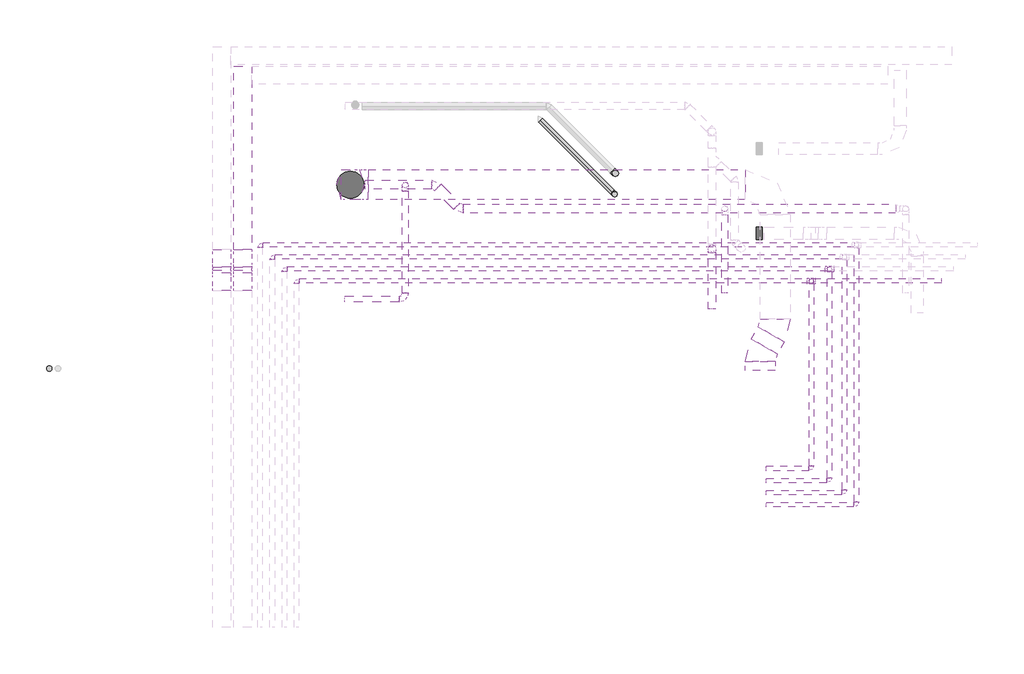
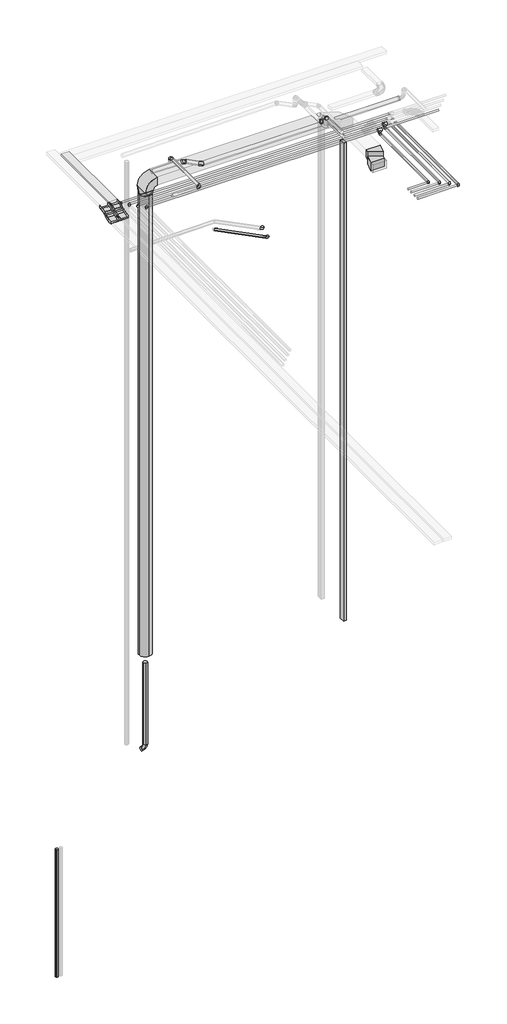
# One storey, part 4 of 5: 19 pipe segments, 15 pipe fittings, 13 duct segments, 10 duct fittings, 4 cable carrier fittings, 4 cable carrier segments.
"""IFC4 building model written with IfcOpenShell, lengths in millimetres."""

from ifc_helpers import new_model, si_unit, point, frame, frame_2d, origin, place, context, project, spatial, polyline, circle_curve, trimmed, segment, composite_curve, outline, extrude, transform, mapped, element, save
from components import m_codo_vertical_exterior_de_canal_el_c4dc7364, m_codo_vertical_interior_de_canal_el_3f65be50, duct_fitting_6ef35b37, ext_4e2ed20d, m_codo_rectangular_radio_ext_1_w_5d3c8198, m_codo_rectangular_radio_ext_1_w_15f3d34f, m_codo_redondo_ext_1_d_fe658834, m_codo_redondo_ext_1_d_85067ab4, m_codo_redondo_ext_1_d_18db741d, pipe_fitting_8e92d537, pipe_fitting_3454c7e7, pipe_fitting_51958308, pipe_fitting_3a68447e, t_soldadura_a_enchufe_ff252817

model = new_model("IFC4")

# Units and contexts
model_context = context("Model", 3, world=origin())
ifc_project = project(units=[si_unit("LENGTHUNIT", "METRE", prefix="MILLI")], contexts=[model_context])

# Site, building, storey
site = spatial("IfcSite", under=ifc_project)
building = spatial("IfcBuilding", under=site)
storey = spatial("IfcBuildingStorey", under=building, Name="Nivell 06 P06_PP", Elevation=29910.0)

# Cable carrier fittings
placement = place(None, origin())
m_codo_vertical_exterior_de_canal_el_shape = m_codo_vertical_exterior_de_canal_el_c4dc7364(model_context)
element("IfcCableCarrierFitting", 1, ObjectType="M_Codo vertical exterior de canal : EL", at=placement, inside=storey, context=model_context, shape_type="MappedRepresentation", body=[
    mapped(m_codo_vertical_exterior_de_canal_el_shape, transform((5357.0671065, 6149.6159499, 33210.0), x_axis=(0.0, -1.0, 0.0), y_axis=(0.0, 0.0, -1.0), z_axis=(1.0, 0.0, 0.0))),
])
element("IfcCableCarrierFitting", 2, ObjectType="M_Codo vertical exterior de canal : EL", at=placement, inside=storey, context=model_context, shape_type="MappedRepresentation", body=[
    mapped(m_codo_vertical_exterior_de_canal_el_shape, transform((5008.2381883, 6149.6159499, 33210.0), x_axis=(0.0, -1.0, 0.0), y_axis=(0.0, 0.0, -1.0), z_axis=(1.0, 0.0, 0.0))),
])
m_codo_vertical_interior_de_canal_el_shape = m_codo_vertical_interior_de_canal_el_3f65be50(model_context)
element("IfcCableCarrierFitting", 3, ObjectType="M_Codo vertical interior de canal : EL", at=placement, inside=storey, context=model_context, shape_type="MappedRepresentation", body=[
    mapped(m_codo_vertical_interior_de_canal_el_shape, transform((5357.0671065, 5803.2057884, 33010.0), x_axis=(0.0, -0.8660254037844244, -0.5000000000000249), y_axis=(0.0, -0.5000000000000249, 0.8660254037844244), z_axis=(-1.0, 0.0, 0.0))),
])
element("IfcCableCarrierFitting", 4, ObjectType="M_Codo vertical interior de canal : EL", at=placement, inside=storey, context=model_context, shape_type="MappedRepresentation", body=[
    mapped(m_codo_vertical_interior_de_canal_el_shape, transform((5008.2381883, 5803.2057884, 33010.0), x_axis=(0.0, -0.8660254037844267, -0.5000000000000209), y_axis=(0.0, -0.5000000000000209, 0.8660254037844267), z_axis=(-1.0, 0.0, 0.0))),
])

# Cable carrier segments
element("IfcCableCarrierSegment", 5, ObjectType="EL", at=placement, inside=storey, context=model_context, shape_type="SweptSolid", body=[
    extrude(outline(polyline([(5207.0671065, 9356.732053), (5507.0671065, 9356.732053), (5507.0671065, 6318.3981673), (5207.0671065, 6318.3981673), (5207.0671065, 9356.732053)])), frame((0.0, 0.0, 33160.0), z_axis=(0.0, 0.0, 1.0), x_axis=(1.0, 0.0, 0.0)), (0.0, 0.0, 1.0), 100.0),
])
element("IfcCableCarrierSegment", 6, ObjectType="EL", at=placement, inside=storey, context=model_context, shape_type="SweptSolid", body=[
    extrude(outline(polyline([(0.0, -300.0), (0.0, 0.0), (62.4355653, 0.0), (62.4355653, -300.0), (0.0, -300.0)])), frame((5507.0671065, 6028.446262, 33082.3076211), z_axis=(0.0, -0.5000000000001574, 0.8660254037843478), x_axis=(0.0, -0.8660254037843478, -0.5000000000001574)), (0.0, 0.0, 1.0), 100.0),
])
element("IfcCableCarrierSegment", 7, ObjectType="EL", at=placement, inside=storey, context=model_context, shape_type="SweptSolid", body=[
    extrude(outline(polyline([(0.0, -300.0), (0.0, 0.0), (62.4355653, 0.0), (62.4355653, -300.0), (0.0, -300.0)])), frame((5158.2381883, 6028.446262, 33082.3076211), z_axis=(0.0, -0.49999999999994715, 0.8660254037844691), x_axis=(0.0, -0.8660254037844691, -0.49999999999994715)), (0.0, 0.0, 1.0), 100.0),
])
element("IfcCableCarrierSegment", 8, ObjectType="SF", at=placement, inside=storey, context=model_context, shape_type="SweptSolid", body=[
    extrude(outline(polyline([(13970.4560007, 6685.5467988), (13970.4560007, 6485.5467988), (13870.4560007, 6485.5467988), (13870.4560007, 6685.5467988), (13970.4560007, 6685.5467988)])), frame((0.0, 0.0, 13920.0), z_axis=(0.0, 0.0, 1.0), x_axis=(1.0, 0.0, 0.0)), (0.0, 0.0, 1.0), 18475.0),
])

# Duct fittings
duct_fitting_shape = duct_fitting_6ef35b37(model_context)
element("IfcDuctFitting", 9, ObjectType="M_Transición de rectangular a redondo - Ángulo : EXT_45 graus", at=placement, inside=storey, context=model_context, shape_type="MappedRepresentation", body=[
    mapped(duct_fitting_shape, transform((7140.48325, 7392.2381133, 32485.0), x_axis=(0.0, 0.0, -1.0), y_axis=(-1.0, 0.0, 0.0), z_axis=(0.0, 1.0, 0.0))),
])
ext_shape = ext_4e2ed20d(model_context)
element("IfcDuctFitting", 10, ObjectType="M_Toma de derivación redonda : EXT", at=placement, inside=storey, context=model_context, shape_type="MappedRepresentation", body=[
    mapped(ext_shape, transform((13350.5896993, 6992.2199701, 33090.0), x_axis=(0.0, 0.0, 1.0), y_axis=(1.0, 0.0, 0.0), z_axis=(0.0, 1.0, 0.0))),
])
m_codo_rectangular_radio_ext_1_w_shape = m_codo_rectangular_radio_ext_1_w_5d3c8198(model_context)
element("IfcDuctFitting", 11, ObjectType="M_Codo rectangular - Radio : EXT_1 W", at=placement, inside=storey, context=model_context, shape_type="MappedRepresentation", body=[
    mapped(m_codo_rectangular_radio_ext_1_w_shape, transform((7140.48325, 7392.2381133, 32785.0), x_axis=(-1.0, 0.0, 0.0), y_axis=(0.0, 0.0, -1.0), z_axis=(0.0, -1.0, 0.0))),
])
m_codo_rectangular_radio_ext_1_w_2_shape = m_codo_rectangular_radio_ext_1_w_15f3d34f(model_context)
element("IfcDuctFitting", 12, ObjectType="M_Codo rectangular - Radio : EXT_1 W", at=placement, inside=storey, context=model_context, shape_type="MappedRepresentation", body=[
    mapped(m_codo_rectangular_radio_ext_1_w_2_shape, transform((14190.3969782, 5024.9532448, 32785.0), x_axis=(0.50000000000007, 0.8660254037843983, 0.0), y_axis=(-0.8660254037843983, 0.50000000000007, 0.0), z_axis=(0.0, 0.0, 1.0))),
])
element("IfcDuctFitting", 13, ObjectType="M_Codo rectangular - Radio : EXT_1 W", at=placement, inside=storey, context=model_context, shape_type="MappedRepresentation", body=[
    mapped(m_codo_rectangular_radio_ext_1_w_2_shape, transform((13940.4053207, 4591.9549925, 32785.0), x_axis=(-0.5000000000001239, -0.8660254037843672, 0.0), y_axis=(0.8660254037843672, -0.5000000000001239, 0.0), z_axis=(0.0, 0.0, 1.0))),
])
m_codo_redondo_ext_1_d_shape = m_codo_redondo_ext_1_d_fe658834(model_context)
element("IfcDuctFitting", 14, ObjectType="M_Codo redondo : EXT_1 D", at=placement, inside=storey, context=model_context, shape_type="MappedRepresentation", body=[
    mapped(m_codo_redondo_ext_1_d_shape, transform((7140.48325, 7392.2381133, 10855.0), x_axis=(0.0, 0.0, -1.0), y_axis=(-0.9999999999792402, 6.443574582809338e-06, 0.0), z_axis=(6.443574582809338e-06, 0.9999999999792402, 0.0))),
])
m_codo_redondo_ext_1_d_2_shape = m_codo_redondo_ext_1_d_85067ab4(model_context)
element("IfcDuctFitting", 15, ObjectType="M_Codo redondo : EXT_1 D", at=placement, inside=storey, context=model_context, shape_type="MappedRepresentation", body=[
    mapped(m_codo_redondo_ext_1_d_2_shape, transform((8050.5896993, 5490.7319202, 33360.0), x_axis=(1.0, 0.0, 0.0), y_axis=(0.0, 1.0, 0.0), z_axis=(0.0, 0.0, 1.0))),
])
element("IfcDuctFitting", 16, ObjectType="M_Codo redondo : EXT_1 D", at=placement, inside=storey, context=model_context, shape_type="MappedRepresentation", body=[
    mapped(m_codo_redondo_ext_1_d_2_shape, transform((8050.5896993, 7388.2772732, 33360.0), x_axis=(0.0, 1.0, 0.0), y_axis=(0.0, 0.0, -1.0), z_axis=(-1.0, 0.0, 0.0))),
])
m_codo_redondo_ext_1_d_3_shape = m_codo_redondo_ext_1_d_18db741d(model_context)
element("IfcDuctFitting", 17, ObjectType="M_Codo redondo : EXT_1 D", at=placement, inside=storey, context=model_context, shape_type="MappedRepresentation", body=[
    mapped(m_codo_redondo_ext_1_d_3_shape, transform((8950.5896993, 6992.2199701, 33015.0), x_axis=(0.7071067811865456, -0.7071067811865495, 0.0), y_axis=(0.7071067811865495, 0.7071067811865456, 0.0), z_axis=(0.0, 0.0, 1.0))),
])
element("IfcDuctFitting", 18, ObjectType="M_Codo redondo : EXT_1 D", at=placement, inside=storey, context=model_context, shape_type="MappedRepresentation", body=[
    mapped(m_codo_redondo_ext_1_d_3_shape, transform((8550.5886625, 7392.2210069, 33015.0), x_axis=(-0.7071067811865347, 0.7071067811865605, 0.0), y_axis=(-0.7071067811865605, -0.7071067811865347, 0.0), z_axis=(0.0, 0.0, 1.0))),
])

# Duct segments
element("IfcDuctSegment", 19, ObjectType="EXT_Planxa galvanitzada", at=placement, inside=storey, context=model_context, shape_type="SweptSolid", body=[
    extrude(outline(polyline([(7440.48325, 7142.2381133), (7440.48325, 7642.2381133), (13690.3969782, 7642.2381133), (13690.3969782, 7142.2381133), (7440.48325, 7142.2381133)])), frame((0.0, 0.0, 32635.0), z_axis=(0.0, 0.0, 1.0), x_axis=(1.0, 0.0, 0.0)), (0.0, 0.0, 1.0), 300.0),
])
element("IfcDuctSegment", 20, ObjectType="EXT_Acer Galvanitzat - Rígid", at=placement, inside=storey, context=model_context, shape_type="SweptSolid", body=[
    extrude(outline(composite_curve([segment(trimmed(circle_curve(frame_2d((7140.48325, 7392.2381133)), 75.0), [point((7215.4832499, 7392.2349849))], [point((7140.4801216, 7317.2381134))], False, "CARTESIAN"), True, "CONTINUOUS"), segment(trimmed(circle_curve(frame_2d((7140.48325, 7392.2381133)), 75.0), [point((7140.4801216, 7317.2381134))], [point((7065.48325, 7392.2412417))], False, "CARTESIAN"), True, "CONTINUOUS"), segment(trimmed(circle_curve(frame_2d((7140.48325, 7392.2381133)), 75.0), [point((7065.48325, 7392.2412417))], [point((7140.4863784, 7467.2381132))], False, "CARTESIAN"), True, "CONTINUOUS"), segment(trimmed(circle_curve(frame_2d((7140.48325, 7392.2381133)), 75.0), [point((7140.4863784, 7467.2381132))], [point((7215.4832499, 7392.2349849))], False, "CARTESIAN"), True, "CONTINUOUS")], self_intersect=False)), frame((0.0, 0.0, 11005.0), z_axis=(0.0, 0.0, 1.0), x_axis=(1.0, 0.0, 0.0)), (0.0, 0.0, 1.0), 3145.3947342),
])
element("IfcDuctSegment", 21, ObjectType="EXT_Acer Galvanitzat - Rígid", at=placement, inside=storey, context=model_context, shape_type="SweptSolid", body=[
    extrude(outline(composite_curve([segment(trimmed(circle_curve(frame_2d((6992.2199701, 33015.0)), 75.0), [point((7067.2199701, 33015.0))], [point((6992.2199701, 32940.0))], False, "CARTESIAN"), True, "CONTINUOUS"), segment(trimmed(circle_curve(frame_2d((6992.2199701, 33015.0)), 75.0), [point((6992.2199701, 32940.0))], [point((6917.2199701, 33015.0))], False, "CARTESIAN"), True, "CONTINUOUS"), segment(trimmed(circle_curve(frame_2d((6992.2199701, 33015.0)), 75.0), [point((6917.2199701, 33015.0))], [point((6992.2199701, 33090.0))], False, "CARTESIAN"), True, "CONTINUOUS"), segment(trimmed(circle_curve(frame_2d((6992.2199701, 33015.0)), 75.0), [point((6992.2199701, 33090.0))], [point((7067.2199701, 33015.0))], False, "CARTESIAN"), True, "CONTINUOUS")], self_intersect=False)), frame((9012.7217336, 0.0, 0.0), z_axis=(1.0, 0.0, 0.0), x_axis=(0.0, 1.0, 0.0)), (0.0, 0.0, 1.0), 7177.5126266),
])
element("IfcDuctSegment", 22, ObjectType="EXT_Acer Galvanitzat - Rígid", at=placement, inside=storey, context=model_context, shape_type="SweptSolid", body=[
    extrude(outline(composite_curve([segment(trimmed(circle_curve(frame_2d((5490.7319202, 33360.0)), 50.0), [point((5440.7319202, 33360.0))], [point((5490.7319202, 33410.0))], False, "CARTESIAN"), True, "CONTINUOUS"), segment(trimmed(circle_curve(frame_2d((5490.7319202, 33360.0)), 50.0), [point((5490.7319202, 33410.0))], [point((5540.7319202, 33360.0))], False, "CARTESIAN"), True, "CONTINUOUS"), segment(trimmed(circle_curve(frame_2d((5490.7319202, 33360.0)), 50.0), [point((5540.7319202, 33360.0))], [point((5490.7319202, 33310.0))], False, "CARTESIAN"), True, "CONTINUOUS"), segment(trimmed(circle_curve(frame_2d((5490.7319202, 33360.0)), 50.0), [point((5490.7319202, 33310.0))], [point((5440.7319202, 33360.0))], False, "CARTESIAN"), True, "CONTINUOUS")], self_intersect=False)), frame((7050.5896993, 0.0, 0.0), z_axis=(1.0, 0.0, 0.0), x_axis=(0.0, 1.0, 0.0)), (0.0, 0.0, 1.0), 900.0),
])
element("IfcDuctSegment", 23, ObjectType="EXT_Acer Galvanitzat - Rígid", at=placement, inside=storey, context=model_context, shape_type="SweptSolid", body=[
    extrude(outline(composite_curve([segment(trimmed(circle_curve(frame_2d((33360.0, 8050.5896993)), 50.0), [point((33360.0, 8000.5896993))], [point((33310.0, 8050.5896993))], False, "CARTESIAN"), True, "CONTINUOUS"), segment(trimmed(circle_curve(frame_2d((33360.0, 8050.5896993)), 50.0), [point((33310.0, 8050.5896993))], [point((33360.0, 8100.5896993))], False, "CARTESIAN"), True, "CONTINUOUS"), segment(trimmed(circle_curve(frame_2d((33360.0, 8050.5896993)), 50.0), [point((33360.0, 8100.5896993))], [point((33410.0, 8050.5896993))], False, "CARTESIAN"), True, "CONTINUOUS"), segment(trimmed(circle_curve(frame_2d((33360.0, 8050.5896993)), 50.0), [point((33410.0, 8050.5896993))], [point((33360.0, 8000.5896993))], False, "CARTESIAN"), True, "CONTINUOUS")], self_intersect=False)), frame((0.0, 5590.7319202, 0.0), z_axis=(0.0, 1.0, 0.0), x_axis=(0.0, 0.0, 1.0)), (0.0, 0.0, 1.0), 1697.545353),
])
element("IfcDuctSegment", 24, ObjectType="EXT_Acer Galvanitzat - Rígid", at=placement, inside=storey, context=model_context, shape_type="SweptSolid", body=[
    extrude(outline(composite_curve([segment(trimmed(circle_curve(frame_2d((8050.5896993, 7388.2772732)), 50.0), [point((8000.5896993, 7388.2772732))], [point((8050.5896993, 7438.2772732))], False, "CARTESIAN"), True, "CONTINUOUS"), segment(trimmed(circle_curve(frame_2d((8050.5896993, 7388.2772732)), 50.0), [point((8050.5896993, 7438.2772732))], [point((8100.5896993, 7388.2772732))], False, "CARTESIAN"), True, "CONTINUOUS"), segment(trimmed(circle_curve(frame_2d((8050.5896993, 7388.2772732)), 50.0), [point((8100.5896993, 7388.2772732))], [point((8050.5896993, 7338.2772732))], False, "CARTESIAN"), True, "CONTINUOUS"), segment(trimmed(circle_curve(frame_2d((8050.5896993, 7388.2772732)), 50.0), [point((8050.5896993, 7338.2772732))], [point((8000.5896993, 7388.2772732))], False, "CARTESIAN"), True, "CONTINUOUS")], self_intersect=False)), frame((0.0, 0.0, 33191.6), z_axis=(0.0, 0.0, 1.0), x_axis=(1.0, 0.0, 0.0)), (0.0, 0.0, 1.0), 68.4),
])
element("IfcDuctSegment", 25, ObjectType="EXT_Acer Galvanitzat - Rígid", at=placement, inside=storey, context=model_context, shape_type="SweptSolid", body=[
    extrude(outline(composite_curve([segment(trimmed(circle_curve(frame_2d((33360.0, 13350.5896993)), 50.0), [point((33360.0, 13300.5896993))], [point((33310.0, 13350.5896993))], False, "CARTESIAN"), True, "CONTINUOUS"), segment(trimmed(circle_curve(frame_2d((33360.0, 13350.5896993)), 50.0), [point((33310.0, 13350.5896993))], [point((33360.0, 13400.5896993))], False, "CARTESIAN"), True, "CONTINUOUS"), segment(trimmed(circle_curve(frame_2d((33360.0, 13350.5896993)), 50.0), [point((33360.0, 13400.5896993))], [point((33410.0, 13350.5896993))], False, "CARTESIAN"), True, "CONTINUOUS"), segment(trimmed(circle_curve(frame_2d((33360.0, 13350.5896993)), 50.0), [point((33410.0, 13350.5896993))], [point((33360.0, 13300.5896993))], False, "CARTESIAN"), True, "CONTINUOUS")], self_intersect=False)), frame((0.0, 5590.7319202, 0.0), z_axis=(0.0, 1.0, 0.0), x_axis=(0.0, 0.0, 1.0)), (0.0, 0.0, 1.0), 1301.48805),
])
element("IfcDuctSegment", 26, ObjectType="EXT_Acer Galvanitzat - Rígid", at=placement, inside=storey, context=model_context, shape_type="SweptSolid", body=[
    extrude(outline(composite_curve([segment(trimmed(circle_curve(frame_2d((13350.5896993, 6992.2199701)), 50.0), [point((13300.5896993, 6992.2199701))], [point((13350.5896993, 7042.2199701))], False, "CARTESIAN"), True, "CONTINUOUS"), segment(trimmed(circle_curve(frame_2d((13350.5896993, 6992.2199701)), 50.0), [point((13350.5896993, 7042.2199701))], [point((13400.5896993, 6992.2199701))], False, "CARTESIAN"), True, "CONTINUOUS"), segment(trimmed(circle_curve(frame_2d((13350.5896993, 6992.2199701)), 50.0), [point((13400.5896993, 6992.2199701))], [point((13350.5896993, 6942.2199701))], False, "CARTESIAN"), True, "CONTINUOUS"), segment(trimmed(circle_curve(frame_2d((13350.5896993, 6992.2199701)), 50.0), [point((13350.5896993, 6942.2199701))], [point((13300.5896993, 6992.2199701))], False, "CARTESIAN"), True, "CONTINUOUS")], self_intersect=False)), frame((0.0, 0.0, 33191.6), z_axis=(0.0, 0.0, 1.0), x_axis=(1.0, 0.0, 0.0)), (0.0, 0.0, 1.0), 68.4),
])
element("IfcDuctSegment", 27, ObjectType="EXT_Planxa galvanitzada", at=placement, inside=storey, context=model_context, shape_type="SweptSolid", body=[
    extrude(outline(polyline([(14190.4053207, 4311.9549925), (13690.4053207, 4311.9549925), (13690.4053207, 4457.9803963), (14190.4053207, 4457.9803963), (14190.4053207, 4311.9549925)])), frame((0.0, 0.0, 32635.0), z_axis=(0.0, 0.0, 1.0), x_axis=(1.0, 0.0, 0.0)), (0.0, 0.0, 1.0), 300.0),
])
element("IfcDuctSegment", 28, ObjectType="EXT_Planxa galvanitzada", at=placement, inside=storey, context=model_context, shape_type="SweptSolid", body=[
    extrude(outline(polyline([(13906.9033292, 5033.927841), (14339.9160311, 4783.927841), (14223.8989697, 4582.9803963), (13790.8862678, 4832.9803963), (13906.9033292, 5033.927841)])), frame((0.0, 0.0, 32635.0), z_axis=(0.0, 0.0, 1.0), x_axis=(1.0, 0.0, 0.0)), (0.0, 0.0, 1.0), 300.0),
])
element("IfcDuctSegment", 29, ObjectType="EXT_Acer Galvanitzat - Rígid", at=placement, inside=storey, context=model_context, shape_type="SweptSolid", body=[
    extrude(outline(composite_curve([segment(trimmed(circle_curve(frame_2d((7140.48325, 7392.2381133)), 225.0), [point((7365.4832498, 7392.2287281))], [point((7140.4738648, 7167.2381135))], False, "CARTESIAN"), True, "CONTINUOUS"), segment(trimmed(circle_curve(frame_2d((7140.48325, 7392.2381133)), 225.0), [point((7140.4738648, 7167.2381135))], [point((6915.4832502, 7392.2474985))], False, "CARTESIAN"), True, "CONTINUOUS"), segment(trimmed(circle_curve(frame_2d((7140.48325, 7392.2381133)), 225.0), [point((6915.4832502, 7392.2474985))], [point((7140.4926352, 7617.2381131))], False, "CARTESIAN"), True, "CONTINUOUS"), segment(trimmed(circle_curve(frame_2d((7140.48325, 7392.2381133)), 225.0), [point((7140.4926352, 7617.2381131))], [point((7365.4832498, 7392.2287281))], False, "CARTESIAN"), True, "CONTINUOUS")], self_intersect=False)), frame((0.0, 0.0, 14512.5267686), z_axis=(0.0, 0.0, 1.0), x_axis=(1.0, 0.0, 0.0)), (0.0, 0.0, 1.0), 17791.4072142),
])
element("IfcDuctSegment", 30, ObjectType="EXT_Acer Galvanitzat - Rígid", at=placement, inside=storey, context=model_context, shape_type="SweptSolid", body=[
    extrude(outline(composite_curve([segment(trimmed(circle_curve(frame_2d((0.0, 75.0)), 75.0), [point((74.9999999, 75.0))], [point((0.0, 0.0))], False, "CARTESIAN"), True, "CONTINUOUS"), segment(trimmed(circle_curve(frame_2d((0.0, 75.0)), 75.0), [point((0.0, 0.0))], [point((-74.9999999, 75.0))], False, "CARTESIAN"), True, "CONTINUOUS"), segment(trimmed(circle_curve(frame_2d((0.0, 75.0)), 75.0), [point((-74.9999999, 75.0))], [point((0.0, 150.0))], False, "CARTESIAN"), True, "CONTINUOUS"), segment(trimmed(circle_curve(frame_2d((0.0, 75.0)), 75.0), [point((0.0, 150.0))], [point((74.9999999, 75.0))], False, "CARTESIAN"), True, "CONTINUOUS")], self_intersect=False)), frame((8906.6557164, 7036.153953, 33090.0), z_axis=(-0.7071067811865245, 0.7071067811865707, 0.0), x_axis=(0.7071067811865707, 0.7071067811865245, 0.0)), (0.0, 0.0, 1.0), 441.4228225),
])
element("IfcDuctSegment", 31, ObjectType="EXT_Acer Galvanitzat - Rígid", at=placement, inside=storey, context=model_context, shape_type="SweptSolid", body=[
    extrude(outline(composite_curve([segment(trimmed(circle_curve(frame_2d((7392.2210069, 33015.0)), 75.0), [point((7467.2210069, 33015.0))], [point((7392.2210069, 32940.0))], False, "CARTESIAN"), True, "CONTINUOUS"), segment(trimmed(circle_curve(frame_2d((7392.2210069, 33015.0)), 75.0), [point((7392.2210069, 32940.0))], [point((7317.2210069, 33015.0))], False, "CARTESIAN"), True, "CONTINUOUS"), segment(trimmed(circle_curve(frame_2d((7392.2210069, 33015.0)), 75.0), [point((7317.2210069, 33015.0))], [point((7392.2210069, 33090.0))], False, "CARTESIAN"), True, "CONTINUOUS"), segment(trimmed(circle_curve(frame_2d((7392.2210069, 33015.0)), 75.0), [point((7392.2210069, 33090.0))], [point((7467.2210069, 33015.0))], False, "CARTESIAN"), True, "CONTINUOUS")], self_intersect=False)), frame((7390.5886625, 0.0, 0.0), z_axis=(1.0, 0.0, 0.0), x_axis=(0.0, 1.0, 0.0)), (0.0, 0.0, 1.0), 1097.8679656),
])

# Pipe fittings
pipe_fitting_shape = pipe_fitting_8e92d537(model_context)
element("IfcPipeFitting", 32, ObjectType="M_Codo - Genérico : Estándar", at=placement, inside=storey, context=model_context, shape_type="MappedRepresentation", body=[
    mapped(pipe_fitting_shape, transform((13139.2009924, 6332.8732675, 33759.3614455), x_axis=(0.0, 0.0, 1.0), y_axis=(-5.758192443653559e-07, -0.9999999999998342, 0.0), z_axis=(0.9999999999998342, -5.758192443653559e-07, 0.0))),
])
pipe_fitting_2_shape = pipe_fitting_3454c7e7(model_context)
element("IfcPipeFitting", 33, ObjectType="M_Codo - Genérico : Estándar", at=placement, inside=storey, context=model_context, shape_type="MappedRepresentation", body=[
    mapped(pipe_fitting_2_shape, transform((11534.5619983, 7581.1908892, 29260.0), x_axis=(0.7070714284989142, -0.7070714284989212, 0.00999950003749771), y_axis=(0.007070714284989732, -0.007070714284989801, -0.9999500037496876), z_axis=(0.707106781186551, 0.707106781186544, 0.0))),
])
pipe_fitting_3_shape = pipe_fitting_51958308(model_context)
element("IfcPipeFitting", 34, ObjectType="M_Codo - Genérico : Estándar", at=placement, inside=storey, context=model_context, shape_type="MappedRepresentation", body=[
    mapped(pipe_fitting_3_shape, transform((11525.3277949, 7233.9123781, 29132.2904279), x_axis=(0.7070714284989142, -0.7070714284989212, 0.00999950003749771), y_axis=(0.007070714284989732, -0.007070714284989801, -0.9999500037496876), z_axis=(0.707106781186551, 0.707106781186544, 0.0))),
])
pipe_fitting_4_shape = pipe_fitting_3a68447e(model_context)
element("IfcPipeFitting", 35, ObjectType="M_Codo - Genérico : Estándar", at=placement, inside=storey, context=model_context, shape_type="MappedRepresentation", body=[
    mapped(pipe_fitting_4_shape, transform((5645.7381883, 6394.2427547, 33022.5), x_axis=(-1.0, 0.0, 0.0), y_axis=(0.0, -1.0, 0.0), z_axis=(0.0, 0.0, 1.0))),
])
element("IfcPipeFitting", 36, ObjectType="M_Codo - Genérico : Estándar", at=placement, inside=storey, context=model_context, shape_type="MappedRepresentation", body=[
    mapped(pipe_fitting_4_shape, transform((5845.7381883, 6194.2427547, 33022.5), x_axis=(-1.0, 0.0, 0.0), y_axis=(0.0, -1.0, 0.0), z_axis=(0.0, 0.0, 1.0))),
])
element("IfcPipeFitting", 37, ObjectType="M_Codo - Genérico : Estándar", at=placement, inside=storey, context=model_context, shape_type="MappedRepresentation", body=[
    mapped(pipe_fitting_4_shape, transform((6045.7381883, 5994.2427547, 33022.5), x_axis=(-1.0, 0.0, 0.0), y_axis=(0.0, -1.0, 0.0), z_axis=(0.0, 0.0, 1.0))),
])
element("IfcPipeFitting", 38, ObjectType="M_Codo - Genérico : Estándar", at=placement, inside=storey, context=model_context, shape_type="MappedRepresentation", body=[
    mapped(pipe_fitting_4_shape, transform((6245.7381883, 5794.2427547, 33022.5), x_axis=(-1.0, 0.0, 0.0), y_axis=(0.0, -1.0, 0.0), z_axis=(0.0, 0.0, 1.0))),
])
element("IfcPipeFitting", 39, ObjectType="M_Codo - Genérico : Estándar", at=placement, inside=storey, context=model_context, shape_type="MappedRepresentation", body=[
    mapped(pipe_fitting_4_shape, transform((14787.4352568, 2683.4063617, 32872.5), x_axis=(1.0, 0.0, 0.0), y_axis=(0.0, 1.0, 0.0), z_axis=(0.0, 0.0, 1.0))),
])
element("IfcPipeFitting", 40, ObjectType="M_Codo - Genérico : Estándar", at=placement, inside=storey, context=model_context, shape_type="MappedRepresentation", body=[
    mapped(pipe_fitting_4_shape, transform((14787.4352568, 5794.2427547, 32872.5), x_axis=(0.0, 0.0, -1.0), y_axis=(0.0, -1.0, 0.0), z_axis=(-1.0, 0.0, 0.0))),
])
element("IfcPipeFitting", 41, ObjectType="M_Codo - Genérico : Estándar", at=placement, inside=storey, context=model_context, shape_type="MappedRepresentation", body=[
    mapped(pipe_fitting_4_shape, transform((15087.4352568, 2483.4063617, 32872.5), x_axis=(1.0, 0.0, 0.0), y_axis=(0.0, 1.0, 0.0), z_axis=(0.0, 0.0, 1.0))),
])
element("IfcPipeFitting", 42, ObjectType="M_Codo - Genérico : Estándar", at=placement, inside=storey, context=model_context, shape_type="MappedRepresentation", body=[
    mapped(pipe_fitting_4_shape, transform((15087.4352568, 5994.2427547, 32872.5), x_axis=(0.0, 0.0, -1.0), y_axis=(0.0, -1.0, 0.0), z_axis=(-1.0, 0.0, 0.0))),
])
element("IfcPipeFitting", 43, ObjectType="M_Codo - Genérico : Estándar", at=placement, inside=storey, context=model_context, shape_type="MappedRepresentation", body=[
    mapped(pipe_fitting_4_shape, transform((15337.4352568, 2283.4063617, 32872.5), x_axis=(1.0, 0.0, 0.0), y_axis=(0.0, 1.0, 0.0), z_axis=(0.0, 0.0, 1.0))),
])
element("IfcPipeFitting", 44, ObjectType="M_Codo - Genérico : Estándar", at=placement, inside=storey, context=model_context, shape_type="MappedRepresentation", body=[
    mapped(pipe_fitting_4_shape, transform((15537.4352568, 2083.4063617, 32872.5), x_axis=(1.0, 0.0, 0.0), y_axis=(0.0, 1.0, 0.0), z_axis=(0.0, 0.0, 1.0))),
])
t_soldadura_a_enchufe_shape = t_soldadura_a_enchufe_ff252817(model_context)
element("IfcPipeFitting", 45, ObjectType="T-Soldadura a enchufe : Estándar", at=placement, inside=storey, context=model_context, shape_type="MappedRepresentation", body=[
    mapped(t_soldadura_a_enchufe_shape, transform((14787.4352568, 5794.2427547, 33022.5), x_axis=(-1.0, 0.0, 0.0), y_axis=(0.0, 0.0, 1.0), z_axis=(0.0, 1.0, 0.0))),
])
element("IfcPipeFitting", 46, ObjectType="T-Soldadura a enchufe : Estándar", at=placement, inside=storey, context=model_context, shape_type="MappedRepresentation", body=[
    mapped(t_soldadura_a_enchufe_shape, transform((15087.4352568, 5994.2427547, 33022.5), x_axis=(-1.0, 0.0, 0.0), y_axis=(0.0, 0.0, 1.0), z_axis=(0.0, 1.0, 0.0))),
])

# Pipe segments
element("IfcPipeSegment", 47, ObjectType="PVC_Baixant", at=placement, inside=storey, context=model_context, shape_type="SweptSolid", body=[
    extrude(outline(composite_curve([segment(trimmed(circle_curve(frame_2d((0.0, -62.5)), 62.5), [point((62.5, -62.5000003))], [point((-3e-07, -125.0))], False, "CARTESIAN"), True, "CONTINUOUS"), segment(trimmed(circle_curve(frame_2d((0.0, -62.5)), 62.5), [point((-3e-07, -125.0))], [point((-62.5, -62.4999996))], False, "CARTESIAN"), True, "CONTINUOUS"), segment(trimmed(circle_curve(frame_2d((0.0, -62.5)), 62.5), [point((-62.5, -62.4999996))], [point((4e-07, 0.0))], False, "CARTESIAN"), True, "CONTINUOUS"), segment(trimmed(circle_curve(frame_2d((0.0, -62.5)), 62.5), [point((4e-07, 0.0))], [point((62.5, -62.5000003))], False, "CARTESIAN"), True, "CONTINUOUS")], self_intersect=False)), frame((13139.2009517, 6262.7750755, 33822.5655523), z_axis=(-5.757904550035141e-07, -0.9999500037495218, 0.00999950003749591), x_axis=(0.9999999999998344, -5.757616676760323e-07, 5.757613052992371e-09)), (0.0, 0.0, 1.0), 931.9351693),
])
element("IfcPipeSegment", 48, ObjectType="PVC_Baixant", at=placement, inside=storey, context=model_context, shape_type="SweptSolid", body=[
    extrude(outline(composite_curve([segment(trimmed(circle_curve(frame_2d((13139.2009924, 6332.8732675)), 62.5), [point((13201.7009924, 6332.8732675))], [point((13139.2009924, 6270.3732675))], False, "CARTESIAN"), True, "CONTINUOUS"), segment(trimmed(circle_curve(frame_2d((13139.2009924, 6332.8732675)), 62.5), [point((13139.2009924, 6270.3732675))], [point((13076.7009924, 6332.8732675))], False, "CARTESIAN"), True, "CONTINUOUS"), segment(trimmed(circle_curve(frame_2d((13139.2009924, 6332.8732675)), 62.5), [point((13076.7009924, 6332.8732675))], [point((13139.2009924, 6395.3732675))], False, "CARTESIAN"), True, "CONTINUOUS"), segment(trimmed(circle_curve(frame_2d((13139.2009924, 6332.8732675)), 62.5), [point((13139.2009924, 6395.3732675))], [point((13201.7009924, 6332.8732675))], False, "CARTESIAN"), True, "CONTINUOUS")], self_intersect=False)), frame((0.0, 0.0, 33459.9719464), z_axis=(0.0, 0.0, 1.0), x_axis=(1.0, 0.0, 0.0)), (0.0, 0.0, 1.0), 228.6628022),
])
element("IfcPipeSegment", 49, ObjectType="PVC_Baixant", at=placement, inside=storey, context=model_context, shape_type="SweptSolid", body=[
    extrude(outline(composite_curve([segment(trimmed(circle_curve(frame_2d((1e-07, -45.0)), 45.0), [point((44.9977504, -44.550045))], [point((0.449955, -89.9977503))], False, "CARTESIAN"), True, "CONTINUOUS"), segment(trimmed(circle_curve(frame_2d((1e-07, -45.0)), 45.0), [point((0.449955, -89.9977503))], [point((-44.9977504, -45.449955))], False, "CARTESIAN"), True, "CONTINUOUS"), segment(trimmed(circle_curve(frame_2d((1e-07, -45.0)), 45.0), [point((-44.9977504, -45.449955))], [point((-0.449955, -0.0022496))], False, "CARTESIAN"), True, "CONTINUOUS"), segment(trimmed(circle_curve(frame_2d((1e-07, -45.0)), 45.0), [point((-0.449955, -0.0022496))], [point((44.9977504, -44.550045))], False, "CARTESIAN"), True, "CONTINUOUS")], self_intersect=False)), frame((10293.8861548, 8465.9903507, 29159.8707139), z_axis=(0.7070714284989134, -0.707071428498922, 0.00999950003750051), x_axis=(0.7071421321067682, 0.7070007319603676, -0.009998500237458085)), (0.0, 0.0, 1.0), 1689.7422983),
])
element("IfcPipeSegment", 50, ObjectType="PPR_CLI_Aquatherm Blue Pipe", at=placement, inside=storey, context=model_context, shape_type="SweptSolid", body=[
    extrude(outline(composite_curve([segment(trimmed(circle_curve(frame_2d((2683.4063617, 32872.5)), 37.5), [point((2645.9063617, 32872.5))], [point((2683.4063617, 32910.0))], False, "CARTESIAN"), True, "CONTINUOUS"), segment(trimmed(circle_curve(frame_2d((2683.4063617, 32872.5)), 37.5), [point((2683.4063617, 32910.0))], [point((2720.9063617, 32872.5))], False, "CARTESIAN"), True, "CONTINUOUS"), segment(trimmed(circle_curve(frame_2d((2683.4063617, 32872.5)), 37.5), [point((2720.9063617, 32872.5))], [point((2683.4063617, 32835.0))], False, "CARTESIAN"), True, "CONTINUOUS"), segment(trimmed(circle_curve(frame_2d((2683.4063617, 32872.5)), 37.5), [point((2683.4063617, 32835.0))], [point((2645.9063617, 32872.5))], False, "CARTESIAN"), True, "CONTINUOUS")], self_intersect=False)), frame((14037.4352568, 0.0, 0.0), z_axis=(1.0, 0.0, 0.0), x_axis=(0.0, 1.0, 0.0)), (0.0, 0.0, 1.0), 704.5625),
])
element("IfcPipeSegment", 51, ObjectType="PPR_CLI_Aquatherm Blue Pipe", at=placement, inside=storey, context=model_context, shape_type="SweptSolid", body=[
    extrude(outline(composite_curve([segment(trimmed(circle_curve(frame_2d((32872.5, 14787.4352568)), 37.5), [point((32872.5, 14824.9352568))], [point((32910.0, 14787.4352568))], False, "CARTESIAN"), True, "CONTINUOUS"), segment(trimmed(circle_curve(frame_2d((32872.5, 14787.4352568)), 37.5), [point((32910.0, 14787.4352568))], [point((32872.5, 14749.9352568))], False, "CARTESIAN"), True, "CONTINUOUS"), segment(trimmed(circle_curve(frame_2d((32872.5, 14787.4352568)), 37.5), [point((32872.5, 14749.9352568))], [point((32835.0, 14787.4352568))], False, "CARTESIAN"), True, "CONTINUOUS"), segment(trimmed(circle_curve(frame_2d((32872.5, 14787.4352568)), 37.5), [point((32835.0, 14787.4352568))], [point((32872.5, 14824.9352568))], False, "CARTESIAN"), True, "CONTINUOUS")], self_intersect=False)), frame((0.0, 2728.8438617, 0.0), z_axis=(0.0, 1.0, 0.0), x_axis=(0.0, 0.0, 1.0)), (0.0, 0.0, 1.0), 3019.9613931),
])
element("IfcPipeSegment", 52, ObjectType="PPR_CLI_Aquatherm Blue Pipe", at=placement, inside=storey, context=model_context, shape_type="SweptSolid", body=[
    extrude(outline(composite_curve([segment(trimmed(circle_curve(frame_2d((2483.4063617, 32872.5)), 37.5), [point((2445.9063617, 32872.5))], [point((2483.4063617, 32910.0))], False, "CARTESIAN"), True, "CONTINUOUS"), segment(trimmed(circle_curve(frame_2d((2483.4063617, 32872.5)), 37.5), [point((2483.4063617, 32910.0))], [point((2520.9063617, 32872.5))], False, "CARTESIAN"), True, "CONTINUOUS"), segment(trimmed(circle_curve(frame_2d((2483.4063617, 32872.5)), 37.5), [point((2520.9063617, 32872.5))], [point((2483.4063617, 32835.0))], False, "CARTESIAN"), True, "CONTINUOUS"), segment(trimmed(circle_curve(frame_2d((2483.4063617, 32872.5)), 37.5), [point((2483.4063617, 32835.0))], [point((2445.9063617, 32872.5))], False, "CARTESIAN"), True, "CONTINUOUS")], self_intersect=False)), frame((14037.4352568, 0.0, 0.0), z_axis=(1.0, 0.0, 0.0), x_axis=(0.0, 1.0, 0.0)), (0.0, 0.0, 1.0), 1004.5625),
])
element("IfcPipeSegment", 53, ObjectType="PPR_CLI_Aquatherm Blue Pipe", at=placement, inside=storey, context=model_context, shape_type="SweptSolid", body=[
    extrude(outline(composite_curve([segment(trimmed(circle_curve(frame_2d((32872.5, 15087.4352568)), 37.5), [point((32872.5, 15124.9352568))], [point((32910.0, 15087.4352568))], False, "CARTESIAN"), True, "CONTINUOUS"), segment(trimmed(circle_curve(frame_2d((32872.5, 15087.4352568)), 37.5), [point((32910.0, 15087.4352568))], [point((32872.5, 15049.9352568))], False, "CARTESIAN"), True, "CONTINUOUS"), segment(trimmed(circle_curve(frame_2d((32872.5, 15087.4352568)), 37.5), [point((32872.5, 15049.9352568))], [point((32835.0, 15087.4352568))], False, "CARTESIAN"), True, "CONTINUOUS"), segment(trimmed(circle_curve(frame_2d((32872.5, 15087.4352568)), 37.5), [point((32835.0, 15087.4352568))], [point((32872.5, 15124.9352568))], False, "CARTESIAN"), True, "CONTINUOUS")], self_intersect=False)), frame((0.0, 2528.8438617, 0.0), z_axis=(0.0, 1.0, 0.0), x_axis=(0.0, 0.0, 1.0)), (0.0, 0.0, 1.0), 3419.9613931),
])
element("IfcPipeSegment", 54, ObjectType="PPR_CLI_Aquatherm Blue Pipe", at=placement, inside=storey, context=model_context, shape_type="SweptSolid", body=[
    extrude(outline(composite_curve([segment(trimmed(circle_curve(frame_2d((2283.4063617, 32872.5)), 37.5), [point((2245.9063617, 32872.5))], [point((2283.4063617, 32910.0))], False, "CARTESIAN"), True, "CONTINUOUS"), segment(trimmed(circle_curve(frame_2d((2283.4063617, 32872.5)), 37.5), [point((2283.4063617, 32910.0))], [point((2320.9063617, 32872.5))], False, "CARTESIAN"), True, "CONTINUOUS"), segment(trimmed(circle_curve(frame_2d((2283.4063617, 32872.5)), 37.5), [point((2320.9063617, 32872.5))], [point((2283.4063617, 32835.0))], False, "CARTESIAN"), True, "CONTINUOUS"), segment(trimmed(circle_curve(frame_2d((2283.4063617, 32872.5)), 37.5), [point((2283.4063617, 32835.0))], [point((2245.9063617, 32872.5))], False, "CARTESIAN"), True, "CONTINUOUS")], self_intersect=False)), frame((14037.4352568, 0.0, 0.0), z_axis=(1.0, 0.0, 0.0), x_axis=(0.0, 1.0, 0.0)), (0.0, 0.0, 1.0), 1254.5625),
])
element("IfcPipeSegment", 55, ObjectType="PPR_CLI_Aquatherm Blue Pipe", at=placement, inside=storey, context=model_context, shape_type="SweptSolid", body=[
    extrude(outline(composite_curve([segment(trimmed(circle_curve(frame_2d((32872.5, 15337.4352568)), 37.5), [point((32872.5, 15374.9352568))], [point((32910.0, 15337.4352568))], False, "CARTESIAN"), True, "CONTINUOUS"), segment(trimmed(circle_curve(frame_2d((32872.5, 15337.4352568)), 37.5), [point((32910.0, 15337.4352568))], [point((32872.5, 15299.9352568))], False, "CARTESIAN"), True, "CONTINUOUS"), segment(trimmed(circle_curve(frame_2d((32872.5, 15337.4352568)), 37.5), [point((32872.5, 15299.9352568))], [point((32835.0, 15337.4352568))], False, "CARTESIAN"), True, "CONTINUOUS"), segment(trimmed(circle_curve(frame_2d((32872.5, 15337.4352568)), 37.5), [point((32835.0, 15337.4352568))], [point((32872.5, 15374.9352568))], False, "CARTESIAN"), True, "CONTINUOUS")], self_intersect=False)), frame((0.0, 2328.8438617, 0.0), z_axis=(0.0, 1.0, 0.0), x_axis=(0.0, 0.0, 1.0)), (0.0, 0.0, 1.0), 3819.9613931),
])
element("IfcPipeSegment", 56, ObjectType="PPR_CLI_Aquatherm Blue Pipe", at=placement, inside=storey, context=model_context, shape_type="SweptSolid", body=[
    extrude(outline(composite_curve([segment(trimmed(circle_curve(frame_2d((2083.4063617, 32872.5)), 37.5), [point((2045.9063617, 32872.5))], [point((2083.4063617, 32910.0))], False, "CARTESIAN"), True, "CONTINUOUS"), segment(trimmed(circle_curve(frame_2d((2083.4063617, 32872.5)), 37.5), [point((2083.4063617, 32910.0))], [point((2120.9063617, 32872.5))], False, "CARTESIAN"), True, "CONTINUOUS"), segment(trimmed(circle_curve(frame_2d((2083.4063617, 32872.5)), 37.5), [point((2120.9063617, 32872.5))], [point((2083.4063617, 32835.0))], False, "CARTESIAN"), True, "CONTINUOUS"), segment(trimmed(circle_curve(frame_2d((2083.4063617, 32872.5)), 37.5), [point((2083.4063617, 32835.0))], [point((2045.9063617, 32872.5))], False, "CARTESIAN"), True, "CONTINUOUS")], self_intersect=False)), frame((14037.4352568, 0.0, 0.0), z_axis=(1.0, 0.0, 0.0), x_axis=(0.0, 1.0, 0.0)), (0.0, 0.0, 1.0), 1454.5625),
])
element("IfcPipeSegment", 57, ObjectType="PPR_CLI_Aquatherm Blue Pipe", at=placement, inside=storey, context=model_context, shape_type="SweptSolid", body=[
    extrude(outline(composite_curve([segment(trimmed(circle_curve(frame_2d((32872.5, 15537.4352568)), 37.5), [point((32872.5, 15574.9352568))], [point((32910.0, 15537.4352568))], False, "CARTESIAN"), True, "CONTINUOUS"), segment(trimmed(circle_curve(frame_2d((32872.5, 15537.4352568)), 37.5), [point((32910.0, 15537.4352568))], [point((32872.5, 15499.9352568))], False, "CARTESIAN"), True, "CONTINUOUS"), segment(trimmed(circle_curve(frame_2d((32872.5, 15537.4352568)), 37.5), [point((32872.5, 15499.9352568))], [point((32835.0, 15537.4352568))], False, "CARTESIAN"), True, "CONTINUOUS"), segment(trimmed(circle_curve(frame_2d((32872.5, 15537.4352568)), 37.5), [point((32835.0, 15537.4352568))], [point((32872.5, 15574.9352568))], False, "CARTESIAN"), True, "CONTINUOUS")], self_intersect=False)), frame((0.0, 2128.8438617, 0.0), z_axis=(0.0, 1.0, 0.0), x_axis=(0.0, 0.0, 1.0)), (0.0, 0.0, 1.0), 4219.9613931),
])
element("IfcPipeSegment", 58, ObjectType="PPR_CLI_Aquatherm Blue Pipe", at=placement, inside=storey, context=model_context, shape_type="SweptSolid", body=[
    extrude(outline(composite_curve([segment(trimmed(circle_curve(frame_2d((5794.2427547, 33022.5)), 37.5), [point((5756.7427547, 33022.5))], [point((5794.2427547, 33060.0))], False, "CARTESIAN"), True, "CONTINUOUS"), segment(trimmed(circle_curve(frame_2d((5794.2427547, 33022.5)), 37.5), [point((5794.2427547, 33060.0))], [point((5831.7427547, 33022.5))], False, "CARTESIAN"), True, "CONTINUOUS"), segment(trimmed(circle_curve(frame_2d((5794.2427547, 33022.5)), 37.5), [point((5831.7427547, 33022.5))], [point((5794.2427547, 32985.0))], False, "CARTESIAN"), True, "CONTINUOUS"), segment(trimmed(circle_curve(frame_2d((5794.2427547, 33022.5)), 37.5), [point((5794.2427547, 32985.0))], [point((5756.7427547, 33022.5))], False, "CARTESIAN"), True, "CONTINUOUS")], self_intersect=False)), frame((14825.9352568, 0.0, 0.0), z_axis=(1.0, 0.0, 0.0), x_axis=(0.0, 1.0, 0.0)), (0.0, 0.0, 1.0), 2116.3840359),
])
element("IfcPipeSegment", 59, ObjectType="PPR_CLI_Aquatherm Blue Pipe", at=placement, inside=storey, context=model_context, shape_type="SweptSolid", body=[
    extrude(outline(composite_curve([segment(trimmed(circle_curve(frame_2d((14787.4352568, 5794.2427547)), 37.5), [point((14824.9352568, 5794.2427547))], [point((14787.4352568, 5756.7427547))], False, "CARTESIAN"), True, "CONTINUOUS"), segment(trimmed(circle_curve(frame_2d((14787.4352568, 5794.2427547)), 37.5), [point((14787.4352568, 5756.7427547))], [point((14749.9352568, 5794.2427547))], False, "CARTESIAN"), True, "CONTINUOUS"), segment(trimmed(circle_curve(frame_2d((14787.4352568, 5794.2427547)), 37.5), [point((14749.9352568, 5794.2427547))], [point((14787.4352568, 5831.7427547))], False, "CARTESIAN"), True, "CONTINUOUS"), segment(trimmed(circle_curve(frame_2d((14787.4352568, 5794.2427547)), 37.5), [point((14787.4352568, 5831.7427547))], [point((14824.9352568, 5794.2427547))], False, "CARTESIAN"), True, "CONTINUOUS")], self_intersect=False)), frame((0.0, 0.0, 32917.9375), z_axis=(0.0, 0.0, 1.0), x_axis=(1.0, 0.0, 0.0)), (0.0, 0.0, 1.0), 66.0625),
])
element("IfcPipeSegment", 60, ObjectType="PPR_CLI_Aquatherm Blue Pipe", at=placement, inside=storey, context=model_context, shape_type="SweptSolid", body=[
    extrude(outline(composite_curve([segment(trimmed(circle_curve(frame_2d((5794.2427547, 33022.5)), 37.5), [point((5756.7427547, 33022.5))], [point((5794.2427547, 33060.0))], False, "CARTESIAN"), True, "CONTINUOUS"), segment(trimmed(circle_curve(frame_2d((5794.2427547, 33022.5)), 37.5), [point((5794.2427547, 33060.0))], [point((5831.7427547, 33022.5))], False, "CARTESIAN"), True, "CONTINUOUS"), segment(trimmed(circle_curve(frame_2d((5794.2427547, 33022.5)), 37.5), [point((5831.7427547, 33022.5))], [point((5794.2427547, 32985.0))], False, "CARTESIAN"), True, "CONTINUOUS"), segment(trimmed(circle_curve(frame_2d((5794.2427547, 33022.5)), 37.5), [point((5794.2427547, 32985.0))], [point((5756.7427547, 33022.5))], False, "CARTESIAN"), True, "CONTINUOUS")], self_intersect=False)), frame((6291.1756883, 0.0, 0.0), z_axis=(1.0, 0.0, 0.0), x_axis=(0.0, 1.0, 0.0)), (0.0, 0.0, 1.0), 8457.7595685),
])
element("IfcPipeSegment", 61, ObjectType="PPR_CLI_Aquatherm Blue Pipe", at=placement, inside=storey, context=model_context, shape_type="SweptSolid", body=[
    extrude(outline(composite_curve([segment(trimmed(circle_curve(frame_2d((15087.4352568, 5994.2427547)), 37.5), [point((15124.9352568, 5994.2427547))], [point((15087.4352568, 5956.7427547))], False, "CARTESIAN"), True, "CONTINUOUS"), segment(trimmed(circle_curve(frame_2d((15087.4352568, 5994.2427547)), 37.5), [point((15087.4352568, 5956.7427547))], [point((15049.9352568, 5994.2427547))], False, "CARTESIAN"), True, "CONTINUOUS"), segment(trimmed(circle_curve(frame_2d((15087.4352568, 5994.2427547)), 37.5), [point((15049.9352568, 5994.2427547))], [point((15087.4352568, 6031.7427547))], False, "CARTESIAN"), True, "CONTINUOUS"), segment(trimmed(circle_curve(frame_2d((15087.4352568, 5994.2427547)), 37.5), [point((15087.4352568, 6031.7427547))], [point((15124.9352568, 5994.2427547))], False, "CARTESIAN"), True, "CONTINUOUS")], self_intersect=False)), frame((0.0, 0.0, 32917.9375), z_axis=(0.0, 0.0, 1.0), x_axis=(1.0, 0.0, 0.0)), (0.0, 0.0, 1.0), 66.0625),
])
element("IfcPipeSegment", 62, ObjectType="PPR_CLI_Aquatherm Blue Pipe", at=placement, inside=storey, context=model_context, shape_type="SweptSolid", body=[
    extrude(outline(composite_curve([segment(trimmed(circle_curve(frame_2d((5994.2427547, 33022.5)), 37.5), [point((5956.7427547, 33022.5))], [point((5994.2427547, 33060.0))], False, "CARTESIAN"), True, "CONTINUOUS"), segment(trimmed(circle_curve(frame_2d((5994.2427547, 33022.5)), 37.5), [point((5994.2427547, 33060.0))], [point((6031.7427547, 33022.5))], False, "CARTESIAN"), True, "CONTINUOUS"), segment(trimmed(circle_curve(frame_2d((5994.2427547, 33022.5)), 37.5), [point((6031.7427547, 33022.5))], [point((5994.2427547, 32985.0))], False, "CARTESIAN"), True, "CONTINUOUS"), segment(trimmed(circle_curve(frame_2d((5994.2427547, 33022.5)), 37.5), [point((5994.2427547, 32985.0))], [point((5956.7427547, 33022.5))], False, "CARTESIAN"), True, "CONTINUOUS")], self_intersect=False)), frame((6091.1756883, 0.0, 0.0), z_axis=(1.0, 0.0, 0.0), x_axis=(0.0, 1.0, 0.0)), (0.0, 0.0, 1.0), 8957.7595685),
])
element("IfcPipeSegment", 63, ObjectType="PPR_CLI_Aquatherm Blue Pipe", at=placement, inside=storey, context=model_context, shape_type="SweptSolid", body=[
    extrude(outline(composite_curve([segment(trimmed(circle_curve(frame_2d((6194.2427547, 33022.5)), 37.5), [point((6156.7427547, 33022.5))], [point((6194.2427547, 33060.0))], False, "CARTESIAN"), True, "CONTINUOUS"), segment(trimmed(circle_curve(frame_2d((6194.2427547, 33022.5)), 37.5), [point((6194.2427547, 33060.0))], [point((6231.7427547, 33022.5))], False, "CARTESIAN"), True, "CONTINUOUS"), segment(trimmed(circle_curve(frame_2d((6194.2427547, 33022.5)), 37.5), [point((6231.7427547, 33022.5))], [point((6194.2427547, 32985.0))], False, "CARTESIAN"), True, "CONTINUOUS"), segment(trimmed(circle_curve(frame_2d((6194.2427547, 33022.5)), 37.5), [point((6194.2427547, 32985.0))], [point((6156.7427547, 33022.5))], False, "CARTESIAN"), True, "CONTINUOUS")], self_intersect=False)), frame((5891.1756883, 0.0, 0.0), z_axis=(1.0, 0.0, 0.0), x_axis=(0.0, 1.0, 0.0)), (0.0, 0.0, 1.0), 9407.7595685),
])
element("IfcPipeSegment", 64, ObjectType="PPR_CLI_Aquatherm Blue Pipe", at=placement, inside=storey, context=model_context, shape_type="SweptSolid", body=[
    extrude(outline(composite_curve([segment(trimmed(circle_curve(frame_2d((6394.2427547, 33022.5)), 37.5), [point((6356.7427547, 33022.5))], [point((6394.2427547, 33060.0))], False, "CARTESIAN"), True, "CONTINUOUS"), segment(trimmed(circle_curve(frame_2d((6394.2427547, 33022.5)), 37.5), [point((6394.2427547, 33060.0))], [point((6431.7427547, 33022.5))], False, "CARTESIAN"), True, "CONTINUOUS"), segment(trimmed(circle_curve(frame_2d((6394.2427547, 33022.5)), 37.5), [point((6431.7427547, 33022.5))], [point((6394.2427547, 32985.0))], False, "CARTESIAN"), True, "CONTINUOUS"), segment(trimmed(circle_curve(frame_2d((6394.2427547, 33022.5)), 37.5), [point((6394.2427547, 32985.0))], [point((6356.7427547, 33022.5))], False, "CARTESIAN"), True, "CONTINUOUS")], self_intersect=False)), frame((5691.1756883, 0.0, 0.0), z_axis=(1.0, 0.0, 0.0), x_axis=(0.0, 1.0, 0.0)), (0.0, 0.0, 1.0), 9807.7595685),
])
element("IfcPipeSegment", 65, ObjectType="PP_FN", at=placement, inside=storey, context=model_context, shape_type="SweptSolid", body=[
    extrude(outline(composite_curve([segment(trimmed(circle_curve(frame_2d((2147.2202586, 4344.5208844)), 45.0), [point((2192.2202586, 4344.5208844))], [point((2147.2202586, 4299.5208844))], False, "CARTESIAN"), True, "CONTINUOUS"), segment(trimmed(circle_curve(frame_2d((2147.2202586, 4344.5208844)), 45.0), [point((2147.2202586, 4299.5208844))], [point((2102.2202586, 4344.5208844))], False, "CARTESIAN"), True, "CONTINUOUS"), segment(trimmed(circle_curve(frame_2d((2147.2202586, 4344.5208844)), 45.0), [point((2102.2202586, 4344.5208844))], [point((2147.2202586, 4389.5208844))], False, "CARTESIAN"), True, "CONTINUOUS"), segment(trimmed(circle_curve(frame_2d((2147.2202586, 4344.5208844)), 45.0), [point((2147.2202586, 4389.5208844))], [point((2192.2202586, 4344.5208844))], False, "CARTESIAN"), True, "CONTINUOUS")], self_intersect=False)), frame((0.0, 0.0, 5605.0), z_axis=(0.0, 0.0, 1.0), x_axis=(1.0, 0.0, 0.0)), (0.0, 0.0, 1.0), 4920.0),
])

save(model, "model.ifc")
